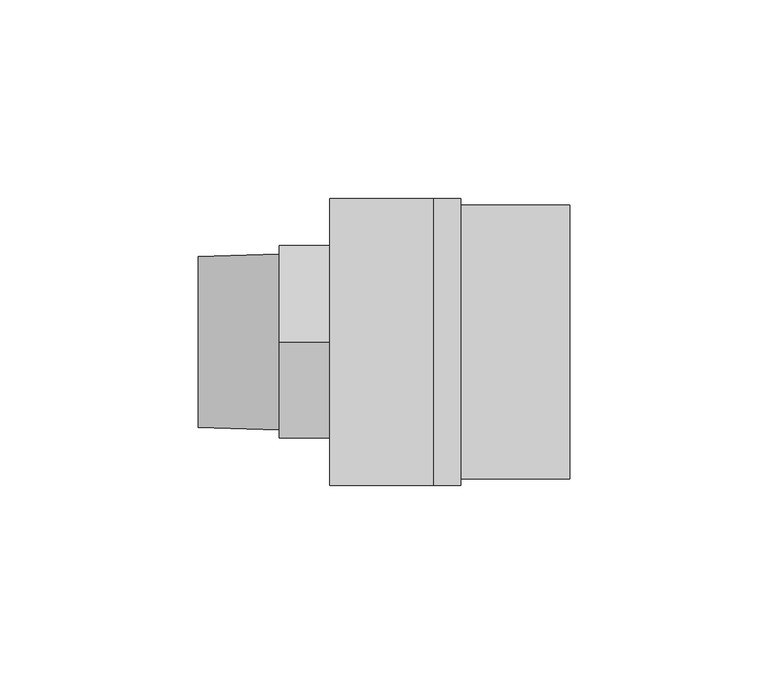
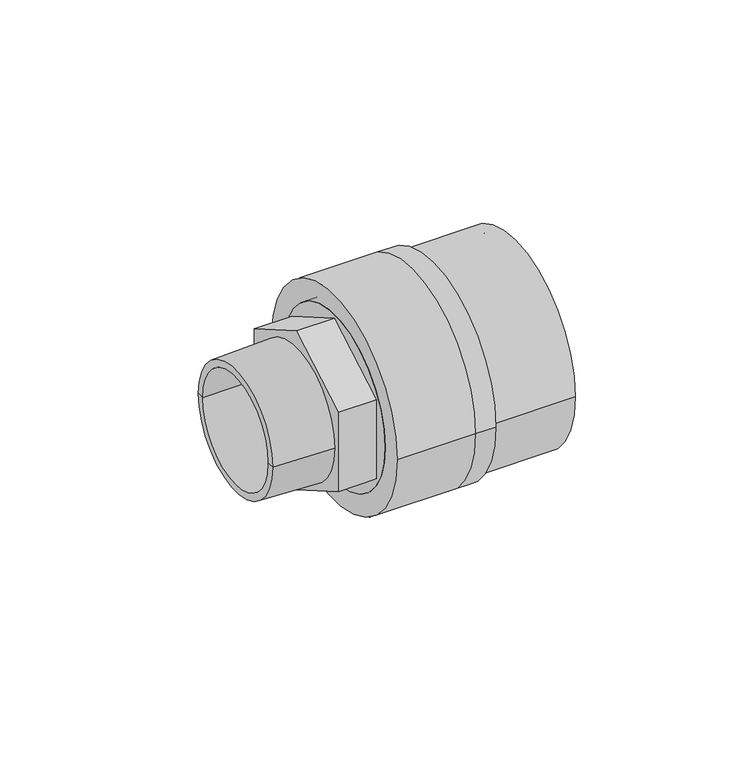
"""IFC4 building model written with IfcOpenShell, lengths in millimetres: valve geometry, Aquatherm - Transition Piece - M HEX : POTABLE BRASS."""

from ifc_helpers import new_model, si_unit, frame, origin, place, context, project, spatial, polyline, circle_curve, source, transform, mapped, element, save
from ifc_brep_helpers import plane_surface, cylinder_surface, revolved_surface, advanced_brep


def valve_5008ea3b(model_context):
    return source(origin(), model_context, "Body", "AdvancedBrep", [
        advanced_brep(
        [(26.162, -29.21, 0.0), (26.162, 29.21, 0.0), (26.162, -19.05, 0.0), (26.162, 19.05, 0.0), (0.0, -29.21, 0.0), (0.0, 29.21, 0.0), (0.0, 0.0, -28.009571), (0.0, 24.257, -14.0047855), (0.0, 24.257, 14.0047855), (0.0, 0.0, 28.009571), (0.0, -24.257, 14.0047855), (0.0, -24.257, -14.0047855), (0.0, -19.05, 0.0), (0.0, 19.05, 0.0), (-12.7, 0.0, -28.009571), (-12.7, -24.257, -14.0047855), (-12.7, -24.257, 14.0047855), (-12.7, 0.0, 28.009571), (-12.7, 24.257, 14.0047855), (-12.7, 24.257, -14.0047855), (-12.7, -22.1609144, 0.0), (-12.7, 22.1609144, 0.0), (-12.7, -19.05, 0.0), (-12.7, 19.05, 0.0), (-33.02, 19.05, 0.0), (-33.02, -19.05, 0.0), (-33.02, 21.4953356, 0.0), (-33.02, -21.4953356, 0.0)],
        [
            (0, 1, circle_curve(frame((26.162, 0.0, 0.0), z_axis=(1.0, 0.0, 0.0), x_axis=(0.0, 1.0, 0.0)), 29.21)),
            (1, 0, circle_curve(frame((26.162, 0.0, 0.0), z_axis=(1.0, 0.0, 0.0), x_axis=(0.0, 1.0, 0.0)), 29.21)),
            (2, 3, circle_curve(frame((26.162, 0.0, 0.0), z_axis=(-1.0, 0.0, 0.0), x_axis=(0.0, 1.0, 0.0)), 19.05)),
            (3, 2, circle_curve(frame((26.162, 0.0, 0.0), z_axis=(-1.0, 0.0, 0.0), x_axis=(0.0, 1.0, 0.0)), 19.05)),
            (4, 5, circle_curve(frame((0.0, 0.0, 0.0), z_axis=(-1.0, 0.0, 0.0), x_axis=(0.0, 1.0, 0.0)), 29.21)),
            (5, 4, circle_curve(frame((0.0, 0.0, 0.0), z_axis=(-1.0, 0.0, 0.0), x_axis=(0.0, 1.0, 0.0)), 29.21)),
            (6, 7),
            (7, 8),
            (8, 9),
            (9, 10),
            (10, 11),
            (11, 6),
            (0, 4),
            (5, 1),
            (2, 12),
            (12, 13, circle_curve(frame((0.0, 0.0, 0.0), z_axis=(-1.0, 0.0, 0.0), x_axis=(0.0, 1.0, 0.0)), 19.05)),
            (13, 3),
            (13, 12, circle_curve(frame((0.0, 0.0, 0.0), z_axis=(-1.0, 0.0, 0.0), x_axis=(0.0, 1.0, 0.0)), 19.05)),
            (14, 15),
            (15, 16),
            (16, 17),
            (17, 18),
            (18, 19),
            (19, 14),
            (20, 21, circle_curve(frame((-12.7, 0.0, 0.0), z_axis=(1.0, 0.0, 0.0), x_axis=(0.0, 1.0, 0.0)), 22.1609144)),
            (21, 20, circle_curve(frame((-12.7, 0.0, 0.0), z_axis=(1.0, 0.0, 0.0), x_axis=(0.0, 1.0, 0.0)), 22.1609144)),
            (19, 7),
            (6, 14),
            (18, 8),
            (17, 9),
            (16, 10),
            (15, 11),
            (12, 22),
            (22, 23, circle_curve(frame((-12.7, 0.0, 0.0), z_axis=(-1.0, 0.0, 0.0), x_axis=(0.0, 1.0, 0.0)), 19.05)),
            (23, 13),
            (23, 22, circle_curve(frame((-12.7, 0.0, 0.0), z_axis=(-1.0, 0.0, 0.0), x_axis=(0.0, 1.0, 0.0)), 19.05)),
            (23, 24),
            (24, 25, circle_curve(frame((-33.02, 0.0, 0.0), z_axis=(-1.0, 0.0, 0.0), x_axis=(0.0, 1.0, 0.0)), 19.05)),
            (25, 22),
            (25, 24, circle_curve(frame((-33.02, 0.0, 0.0), z_axis=(-1.0, 0.0, 0.0), x_axis=(0.0, 1.0, 0.0)), 19.05)),
            (24, 26),
            (26, 27, circle_curve(frame((-33.02, 0.0, 0.0), z_axis=(-1.0, 0.0, 0.0), x_axis=(0.0, 1.0, 0.0)), 21.4953356)),
            (27, 25),
            (27, 26, circle_curve(frame((-33.02, 0.0, 0.0), z_axis=(-1.0, 0.0, 0.0), x_axis=(0.0, 1.0, 0.0)), 21.4953356)),
            (26, 21),
            (20, 27),
        ],
        [
            plane_surface(frame((26.162, 29.21, 0.0), z_axis=(1.0, 0.0, 0.0), x_axis=(0.0, 0.0, 1.0))),
            plane_surface(frame((0.0, 29.21, 0.0), z_axis=(-1.0, 0.0, 0.0), x_axis=(0.0, 0.0, -1.0))),
            cylinder_surface(frame((0.0, 0.0, 0.0), z_axis=(1.0, 0.0, 0.0), x_axis=(0.0, 1.0, 0.0)), 29.21),
            revolved_surface(polyline([(0.0, 19.05, 0.0), (26.162, 19.05, 0.0)]), (17.447219, 0.0, 0.0), (-1.0, 0.0, 0.0)),
            plane_surface(frame((-12.7, 0.0, -28.009571), z_axis=(-1.0, 0.0, 0.0), x_axis=(0.0, -0.8660254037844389, -0.4999999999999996))),
            plane_surface(frame((0.0, 0.0, -28.009571), z_axis=(0.0, 0.4999999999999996, -0.8660254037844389), x_axis=(-1.0, 0.0, 0.0))),
            plane_surface(frame((0.0, 24.257, -14.0047855), z_axis=(0.0, 1.0, 0.0), x_axis=(-1.0, 0.0, 0.0))),
            plane_surface(frame((0.0, 24.257, 14.0047855), z_axis=(0.0, 0.49999999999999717, 0.8660254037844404), x_axis=(-1.0, 0.0, 0.0))),
            plane_surface(frame((0.0, 0.0, 28.009571), z_axis=(0.0, -0.5000000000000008, 0.8660254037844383), x_axis=(-1.0, 0.0, 0.0))),
            plane_surface(frame((0.0, -24.257, 14.0047855), z_axis=(0.0, -1.0, 0.0), x_axis=(-1.0, 0.0, 0.0))),
            plane_surface(frame((0.0, -24.257, -14.0047855), z_axis=(0.0, -0.499999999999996, -0.8660254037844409), x_axis=(-1.0, 0.0, 0.0))),
            revolved_surface(polyline([(-12.7, 19.05, 0.0), (0.0, 19.05, 0.0)]), (0.0, 0.0, 0.0), (-1.0, 0.0, 0.0)),
            revolved_surface(polyline([(-33.02, 19.05, 0.0), (-12.700000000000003, 19.05, 0.0)]), (-67.8930688, 0.0, 0.0), (-1.0, 0.0, 0.0)),
            plane_surface(frame((-33.02, 0.0, 0.0), z_axis=(-1.0, 0.0, 0.0), x_axis=(0.0, 1.0, 0.0))),
            revolved_surface(polyline([(-12.7, 22.1609144, 0.0), (-33.02, 21.4953356, 0.0)]), (-67.8930688, 0.0, 0.0), (-1.0, 0.0, 0.0)),
        ],
        [
            (0, [[1, 2], [3, 4]]),
            (1, [[5, 6], [7, 8, 9, 10, 11, 12]]),
            (2, [[-1, 13, -6, 14]]),
            (2, [[-2, -14, -5, -13]]),
            (3, [[-3, 15, 16, 17]]),
            (3, [[-4, -17, 18, -15]]),
            (4, [[19, 20, 21, 22, 23, 24], [25, 26]]),
            (5, [[-24, 27, -7, 28]]),
            (6, [[-23, 29, -8, -27]]),
            (7, [[-22, 30, -9, -29]]),
            (8, [[-21, 31, -10, -30]]),
            (9, [[-20, 32, -11, -31]]),
            (10, [[-19, -28, -12, -32]]),
            (11, [[33, 34, 35, -16]]),
            (11, [[-33, -18, -35, 36]]),
            (12, [[37, 38, 39, -36]]),
            (12, [[-37, -34, -39, 40]]),
            (13, [[-38, 41, 42, 43]]),
            (13, [[-40, -43, 44, -41]]),
            (14, [[-42, 45, -25, 46]]),
            (14, [[-44, -46, -26, -45]]),
        ],
    ),
        advanced_brep(
        [(0.0, -36.195, 0.0), (0.0, 36.195, 0.0), (0.0, -29.21, 0.0), (0.0, 29.21, 0.0), (26.162, 36.195, 0.0), (26.162, -36.195, 0.0), (26.162, 29.21, 0.0), (26.162, -29.21, 0.0), (33.02, -36.195, 0.0), (33.02, 36.195, 0.0), (33.02, 34.544, 0.0), (33.02, -34.544, 0.0), (33.02, 31.496, 0.0), (33.02, -31.496, 0.0), (33.02, -25.4, 0.0), (33.02, 25.4, 0.0), (26.162, -25.4, 0.0), (26.162, 25.4, 0.0), (60.452, -34.544, 0.0), (60.452, 34.544, 0.0), (60.452, -31.496, 0.0), (60.452, 31.496, 0.0)],
        [
            (0, 1, circle_curve(frame((0.0, 0.0, 0.0), z_axis=(-1.0, 0.0, 0.0), x_axis=(0.0, 1.0, 0.0)), 36.195)),
            (1, 0, circle_curve(frame((0.0, 0.0, 0.0), z_axis=(-1.0, 0.0, 0.0), x_axis=(0.0, 1.0, 0.0)), 36.195)),
            (2, 3, circle_curve(frame((0.0, 0.0, 0.0), z_axis=(1.0, 0.0, 0.0), x_axis=(0.0, 1.0, 0.0)), 29.21)),
            (3, 2, circle_curve(frame((0.0, 0.0, 0.0), z_axis=(1.0, 0.0, 0.0), x_axis=(0.0, 1.0, 0.0)), 29.21)),
            (1, 4),
            (4, 5, circle_curve(frame((26.162, 0.0, 0.0), z_axis=(-1.0, 0.0, 0.0), x_axis=(0.0, 1.0, 0.0)), 36.195)),
            (5, 0),
            (5, 4, circle_curve(frame((26.162, 0.0, 0.0), z_axis=(-1.0, 0.0, 0.0), x_axis=(0.0, 1.0, 0.0)), 36.195)),
            (3, 6),
            (6, 7, circle_curve(frame((26.162, 0.0, 0.0), z_axis=(1.0, 0.0, 0.0), x_axis=(0.0, 1.0, 0.0)), 29.21)),
            (7, 2),
            (7, 6, circle_curve(frame((26.162, 0.0, 0.0), z_axis=(1.0, 0.0, 0.0), x_axis=(0.0, 1.0, 0.0)), 29.21)),
            (8, 9, circle_curve(frame((33.02, 0.0, 0.0), z_axis=(1.0, 0.0, 0.0), x_axis=(0.0, 1.0, 0.0)), 36.195)),
            (9, 8, circle_curve(frame((33.02, 0.0, 0.0), z_axis=(1.0, 0.0, 0.0), x_axis=(0.0, 1.0, 0.0)), 36.195)),
            (10, 11, circle_curve(frame((33.02, 0.0, 0.0), z_axis=(-1.0, 0.0, 0.0), x_axis=(0.0, 1.0, 0.0)), 34.544)),
            (11, 10, circle_curve(frame((33.02, 0.0, 0.0), z_axis=(-1.0, 0.0, 0.0), x_axis=(0.0, 1.0, 0.0)), 34.544)),
            (12, 13, circle_curve(frame((33.02, 0.0, 0.0), z_axis=(1.0, 0.0, 0.0), x_axis=(0.0, 1.0, 0.0)), 31.496)),
            (13, 12, circle_curve(frame((33.02, 0.0, 0.0), z_axis=(1.0, 0.0, 0.0), x_axis=(0.0, 1.0, 0.0)), 31.496)),
            (14, 15, circle_curve(frame((33.02, 0.0, 0.0), z_axis=(-1.0, 0.0, 0.0), x_axis=(0.0, 1.0, 0.0)), 25.4)),
            (15, 14, circle_curve(frame((33.02, 0.0, 0.0), z_axis=(-1.0, 0.0, 0.0), x_axis=(0.0, 1.0, 0.0)), 25.4)),
            (16, 17, circle_curve(frame((26.162, 0.0, 0.0), z_axis=(1.0, 0.0, 0.0), x_axis=(0.0, 1.0, 0.0)), 25.4)),
            (17, 16, circle_curve(frame((26.162, 0.0, 0.0), z_axis=(1.0, 0.0, 0.0), x_axis=(0.0, 1.0, 0.0)), 25.4)),
            (8, 5),
            (4, 9),
            (14, 16),
            (17, 15),
            (18, 19, circle_curve(frame((60.452, 0.0, 0.0), z_axis=(1.0, 0.0, 0.0), x_axis=(0.0, 1.0, 0.0)), 34.544)),
            (19, 18, circle_curve(frame((60.452, 0.0, 0.0), z_axis=(1.0, 0.0, 0.0), x_axis=(0.0, 1.0, 0.0)), 34.544)),
            (20, 21, circle_curve(frame((60.452, 0.0, 0.0), z_axis=(-1.0, 0.0, 0.0), x_axis=(0.0, 1.0, 0.0)), 31.496)),
            (21, 20, circle_curve(frame((60.452, 0.0, 0.0), z_axis=(-1.0, 0.0, 0.0), x_axis=(0.0, 1.0, 0.0)), 31.496)),
            (18, 11),
            (10, 19),
            (20, 13),
            (12, 21),
        ],
        [
            plane_surface(frame((0.0, 36.195, 0.0), z_axis=(-1.0, 0.0, 0.0), x_axis=(0.0, 0.0, -1.0))),
            cylinder_surface(frame((0.0, 0.0, 0.0), z_axis=(1.0, 0.0, 0.0), x_axis=(0.0, 1.0, 0.0)), 36.195),
            revolved_surface(polyline([(0.0, 29.21, 0.0), (26.162, 29.21, 0.0)]), (-38.1, 0.0, 0.0), (-1.0, 0.0, 0.0)),
            plane_surface(frame((33.02, 36.195, 0.0), z_axis=(1.0, 0.0, 0.0), x_axis=(0.0, 0.0, 1.0))),
            plane_surface(frame((26.162, 36.195, 0.0), z_axis=(-1.0, 0.0, 0.0), x_axis=(0.0, 0.0, -1.0))),
            cylinder_surface(frame((26.162, 0.0, 0.0), z_axis=(1.0, 0.0, 0.0), x_axis=(0.0, 1.0, 0.0)), 36.195),
            revolved_surface(polyline([(26.162000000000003, 25.4, 0.0), (33.02000000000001, 25.4, 0.0)]), (-19.05, 0.0, 0.0), (-1.0, 0.0, 0.0)),
            plane_surface(frame((60.452, 34.544, 0.0), z_axis=(1.0, 0.0, 0.0), x_axis=(0.0, 0.0, 1.0))),
            cylinder_surface(frame((33.02, 0.0, 0.0), z_axis=(1.0, 0.0, 0.0), x_axis=(0.0, 1.0, 0.0)), 34.544),
            revolved_surface(polyline([(33.02, 31.496, 0.0), (60.452, 31.496, 0.0)]), (0.0, 0.0, 0.0), (-1.0, 0.0, 0.0)),
        ],
        [
            (0, [[1, 2], [3, 4]]),
            (1, [[-2, 5, 6, 7]]),
            (1, [[-1, -7, 8, -5]]),
            (2, [[-4, 9, 10, 11]]),
            (2, [[-3, -11, 12, -9]]),
            (3, [[13, 14], [15, 16]]),
            (3, [[17, 18], [19, 20]]),
            (4, [[-10, -12], [21, 22]]),
            (5, [[-13, 23, -6, 24]]),
            (5, [[-14, -24, -8, -23]]),
            (6, [[-19, 25, -22, 26]]),
            (6, [[-20, -26, -21, -25]]),
            (7, [[27, 28], [29, 30]]),
            (8, [[-27, 31, -15, 32]]),
            (8, [[-28, -32, -16, -31]]),
            (9, [[-29, 33, -17, 34]]),
            (9, [[-30, -34, -18, -33]]),
        ],
    ),
    ])


if __name__ == "__main__":
    model = new_model("IFC4")
    model_context = context("Model", 3, world=origin())
    ifc_project = project(units=[si_unit("LENGTHUNIT", "METRE", prefix="MILLI")], contexts=[model_context])
    site = spatial("IfcSite", under=ifc_project)
    building = spatial("IfcBuilding", under=site)
    placement = place(None, origin())
    valve_shape = valve_5008ea3b(model_context)
    element("IfcValve", 1, ObjectType="Aquatherm - Transition Piece - M HEX : POTABLE BRASS", at=placement, inside=building, context=model_context, shape_type="MappedRepresentation", body=[
        mapped(valve_shape, transform((0.0, 0.0, 0.0), x_axis=(1.0, 0.0, 0.0), y_axis=(0.0, 1.0, 0.0), z_axis=(0.0, 0.0, 1.0))),
    ])
    save(model, "model.ifc")
